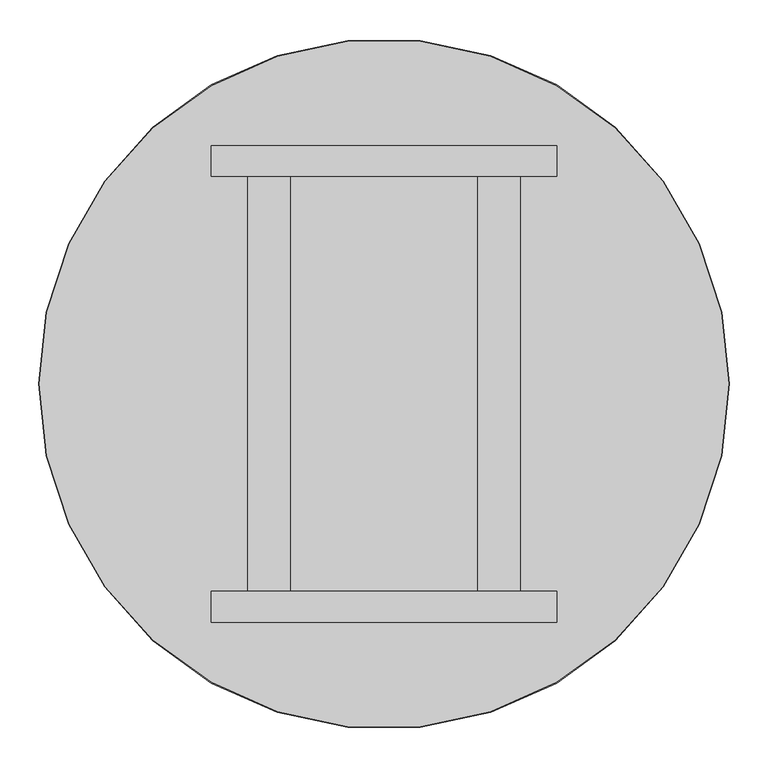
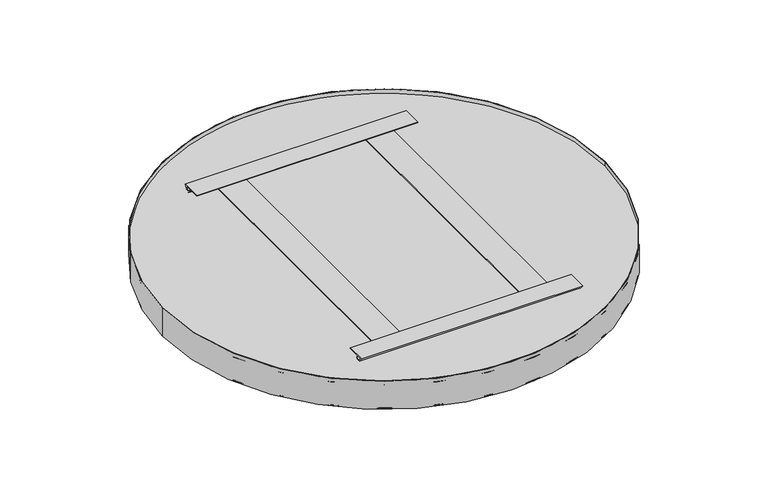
"""IFC4 building model written with IfcOpenShell, lengths in millimetres: proxy geometry, durlum_TOMEO-R-active : durlum_TOMEO-R-ACTIVE 900."""

from ifc_helpers import new_model, si_unit, point, frame, origin, origin_with_axes, origin_2d, place, context, project, spatial, polyline, circle_curve, trimmed, segment, composite_curve, outline, extrude, source, transform, mapped, element, save


def generic_models_cba988bb(model_context):
    return source(origin(), model_context, "Body", "SweptSolid", [
        extrude(outline(polyline([(56.0, 176.3333333), (56.0, 121.3333333), (54.0, 121.3333333), (54.0, 147.8333333), (3.0, 147.8333333), (3.0, 121.3333333), (1.0, 121.3333333), (1.0, 176.3333333), (3.0, 176.3333333), (3.0, 149.8333333), (54.0, 149.8333333), (54.0, 176.3333333), (56.0, 176.3333333)])), frame((0.0, -297.6666667, 0.0), z_axis=(0.0, 1.0, 0.0), x_axis=(0.0, 0.0, 1.0)), (0.0, 0.0, 1.0), 595.3333333),
        extrude(outline(polyline([(308.2973023, 60.0), (298.3726306, 48.0), (297.1040606, 48.0), (290.6509118, 53.6332485), (291.6072389, 54.7895514), (297.6666667, 49.5), (305.1101704, 58.5), (268.2973023, 58.5), (268.2973023, 60.0), (308.2973023, 60.0)])), frame((-223.25, 0.0, 0.0), z_axis=(1.0, 0.0, 0.0), x_axis=(0.0, 1.0, 0.0)), (0.0, 0.0, 1.0), 446.5),
        extrude(outline(polyline([(-308.2973023, 60.0), (-268.2973023, 60.0), (-268.2973023, 58.5), (-305.1101704, 58.5), (-297.6666667, 49.5), (-291.6072389, 54.7895514), (-290.6509118, 53.6332485), (-297.1040606, 48.0), (-298.3726306, 48.0), (-308.2973023, 60.0)])), frame((-223.25, 0.0, 0.0), z_axis=(1.0, 0.0, 0.0), x_axis=(0.0, 1.0, 0.0)), (0.0, 0.0, 1.0), 446.5),
        extrude(outline(polyline([(56.0, -121.3333333), (56.0, -176.3333333), (54.0, -176.3333333), (54.0, -149.8333333), (3.0, -149.8333333), (3.0, -176.3333333), (1.0, -176.3333333), (1.0, -121.3333333), (3.0, -121.3333333), (3.0, -147.8333333), (54.0, -147.8333333), (54.0, -121.3333333), (56.0, -121.3333333)])), frame((0.0, -297.6666667, 0.0), z_axis=(0.0, 1.0, 0.0), x_axis=(0.0, 0.0, 1.0)), (0.0, 0.0, 1.0), 595.3333333),
        extrude(outline(composite_curve([segment(trimmed(circle_curve(origin_2d(), 445.5), [point((-445.5, 0.0))], [point((445.5, 0.0))], False, "CARTESIAN"), True, "CONTINUOUS"), segment(trimmed(circle_curve(origin_2d(), 445.5), [point((445.5, 0.0))], [point((-445.5, 0.0))], False, "CARTESIAN"), True, "CONTINUOUS")], self_intersect=False)), frame((0.0, 0.0, 1.0), z_axis=(0.0, 0.0, 1.0), x_axis=(1.0, 0.0, 0.0)), (0.0, 0.0, 1.0), 50.2547795),
        extrude(outline(composite_curve([segment(trimmed(circle_curve(origin_2d(), 445.5), [point((-445.5, 0.0))], [point((445.5, 0.0))], False, "CARTESIAN"), True, "CONTINUOUS"), segment(trimmed(circle_curve(origin_2d(), 445.5), [point((445.5, 0.0))], [point((-445.5, 0.0))], False, "CARTESIAN"), True, "CONTINUOUS")], self_intersect=False)), frame((0.0, 0.0, 1.0), z_axis=(0.0, 0.0, 1.0), x_axis=(1.0, 0.0, 0.0)), (0.0, 0.0, 1.0), 1.0),
        extrude(outline(composite_curve([segment(trimmed(circle_curve(origin_2d(), 445.5), [point((-445.5, 0.0))], [point((445.5, 0.0))], False, "CARTESIAN"), True, "CONTINUOUS"), segment(trimmed(circle_curve(origin_2d(), 445.5), [point((445.5, 0.0))], [point((-445.5, 0.0))], False, "CARTESIAN"), True, "CONTINUOUS")], self_intersect=False)), origin_with_axes(), (0.0, 0.0, 1.0), 1.0),
        extrude(outline(composite_curve([segment(trimmed(circle_curve(origin_2d(), 446.5), [point((-446.5, 0.0))], [point((446.5, 0.0))], False, "CARTESIAN"), True, "CONTINUOUS"), segment(trimmed(circle_curve(origin_2d(), 446.5), [point((446.5, 0.0))], [point((-446.5, 0.0))], False, "CARTESIAN"), True, "CONTINUOUS")], self_intersect=False), holes=[composite_curve([segment(trimmed(circle_curve(origin_2d(), 445.5), [point((-445.5, 0.0))], [point((445.5, 0.0))], True, "CARTESIAN"), True, "CONTINUOUS"), segment(trimmed(circle_curve(origin_2d(), 445.5), [point((445.5, 0.0))], [point((-445.5, 0.0))], True, "CARTESIAN"), True, "CONTINUOUS")], self_intersect=False)]), origin_with_axes(), (0.0, 0.0, 1.0), 60.0),
    ])


if __name__ == "__main__":
    model = new_model("IFC4")
    model_context = context("Model", 3, world=origin())
    ifc_project = project(units=[si_unit("LENGTHUNIT", "METRE", prefix="MILLI")], contexts=[model_context])
    site = spatial("IfcSite", under=ifc_project)
    building = spatial("IfcBuilding", under=site)
    placement = place(None, origin())
    generic_models_shape = generic_models_cba988bb(model_context)
    element("IfcBuildingElementProxy", 1, Name="durlum_TOMEO-R-active : durlum_TOMEO-R-ACTIVE 900", ObjectType="durlum_TOMEO-R-active : durlum_TOMEO-R-ACTIVE 900", at=placement, inside=building, context=model_context, shape_type="MappedRepresentation", body=[
        mapped(generic_models_shape, transform((0.0, 0.0, 0.0), x_axis=(1.0, 0.0, 0.0), y_axis=(0.0, 1.0, 0.0), z_axis=(0.0, 0.0, 1.0))),
    ])
    save(model, "model.ifc")
